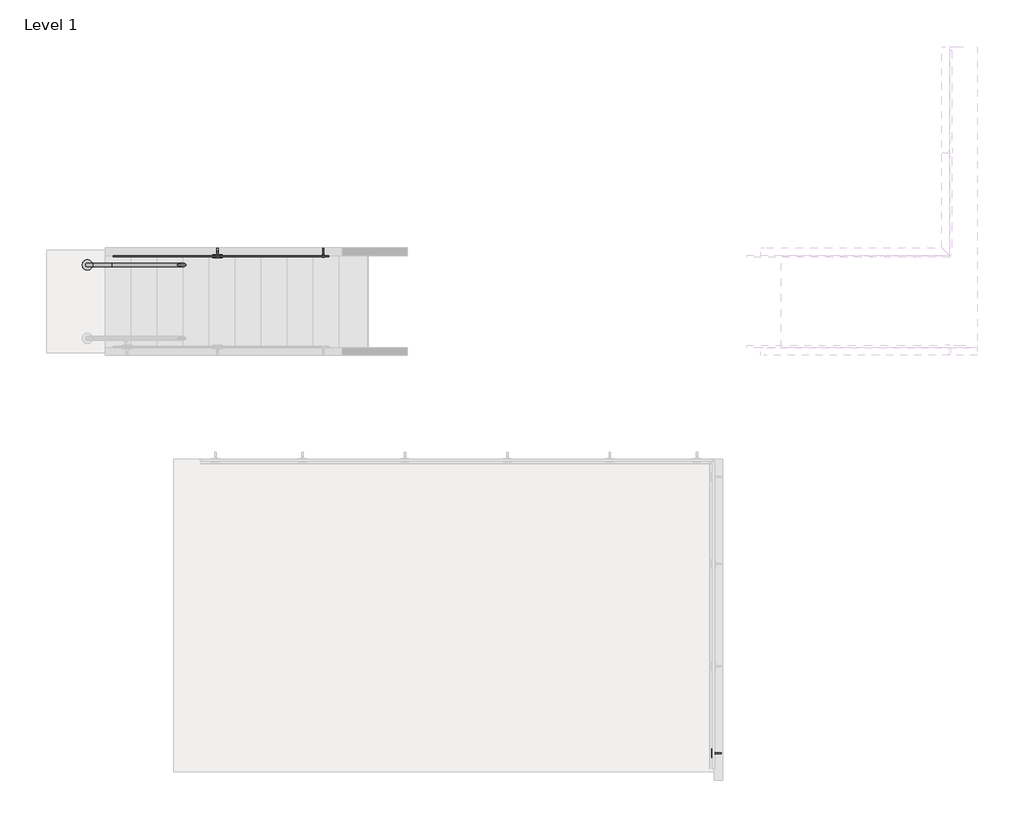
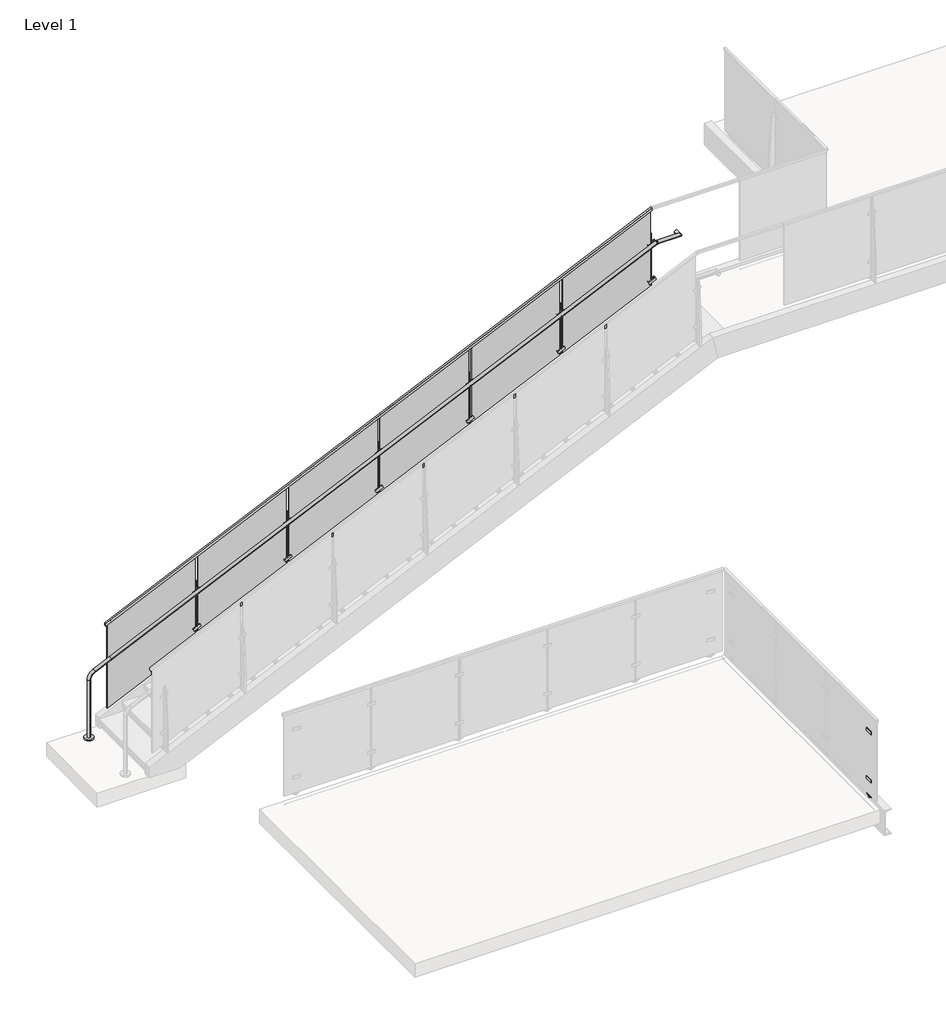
# One storey, part 15 of 37: 1 proxy, 1 railing.
"""IFC4 building model written with IfcOpenShell, lengths in millimetres."""

from ifc_helpers import new_model, si_unit, point, frame, frame_2d, origin, place, context, project, spatial, polyline, circle_curve, ellipse_curve, trimmed, segment, composite_curve, outline, extrude, faceted_brep, transform, mapped, element, save
from ifc_brep_helpers import plane_surface, cylinder_surface, revolved_surface, advanced_brep
from components import baluster_end_post_viva_solo_top_mount_welded_steel_channel_5e72ad2b

model = new_model("IFC4")

# Units and contexts
model_context = context("Model", 3, world=origin())
ifc_project = project(units=[si_unit("LENGTHUNIT", "METRE", prefix="MILLI")], contexts=[model_context])

# Site, building, storey
site = spatial("IfcSite", under=ifc_project)
building = spatial("IfcBuilding", under=site)
storey = spatial("IfcBuildingStorey", under=building, Name="Level 1", Elevation=0.0)

# Proxy
placement = place(None, origin())
baluster_end_post_viva_solo_top_mount_welded_steel_channel_shape = baluster_end_post_viva_solo_top_mount_welded_steel_channel_5e72ad2b(model_context)
element("IfcBuildingElementProxy", 1, Name="Baluster-End-Post-VIVA-SOLO-Top Mount : WELDED STEEL CHANNEL_TOP MOUNT FOLD_STRAIGHT", ObjectType="Baluster-End-Post-VIVA-SOLO-Top Mount : WELDED STEEL CHANNEL_TOP MOUNT FOLD_STRAIGHT", at=placement, inside=storey, context=model_context, shape_type="MappedRepresentation", body=[
    mapped(baluster_end_post_viva_solo_top_mount_welded_steel_channel_shape, transform((-7805.6781451, 8794.6434615, -0.508), x_axis=(0.0, 1.0, 0.0), y_axis=(-1.0, 0.0, 0.0), z_axis=(0.0, 0.0, 1.0))),
])

# Railing
element("IfcRailing", 2, ObjectType="VIVA-SOLO-Glass-Top_Weld_Steel-Channel Mount-Stair_Left", at=placement, inside=storey, context=model_context, shape_type="SolidModel", body=[
    advanced_brep(
    [(-7424.494526, 13771.1266645, 3750.91912), (-7424.494526, 13809.2266645, 3750.91912), (-7151.444526, 13771.1266645, 3750.91912), (-7189.544526, 13809.2266645, 3750.91912), (-7151.444526, 13853.6766645, 3750.91912), (-7189.544526, 13853.6766645, 3750.91912)],
    [
        (0, 1, circle_curve(frame((-7424.494526, 13790.1766645, 3750.91912), z_axis=(-1.0, 0.0, 0.0), x_axis=(0.0, 1.0, 0.0)), 19.05)),
        (1, 0, circle_curve(frame((-7424.494526, 13790.1766645, 3750.91912), z_axis=(-1.0, 0.0, 0.0), x_axis=(0.0, 1.0, 0.0)), 19.05)),
        (0, 2),
        (2, 3, ellipse_curve(frame((-7170.494526, 13790.1766645, 3750.91912), z_axis=(-0.7071067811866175, -0.7071067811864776, 0.0), x_axis=(-0.7071067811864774, 0.7071067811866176, 0.0)), 26.9407684, 19.05)),
        (3, 1),
        (3, 2, ellipse_curve(frame((-7170.494526, 13790.1766645, 3750.91912), z_axis=(-0.7071067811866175, -0.7071067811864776, 0.0), x_axis=(-0.7071067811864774, 0.7071067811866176, 0.0)), 26.9407684, 19.05)),
        (4, 5, circle_curve(frame((-7170.494526, 13853.6766645, 3750.91912), z_axis=(0.0, 1.0, 0.0), x_axis=(-1.0, 0.0, 0.0)), 19.05)),
        (5, 4, circle_curve(frame((-7170.494526, 13853.6766645, 3750.91912), z_axis=(0.0, 1.0, 0.0), x_axis=(-1.0, 0.0, 0.0)), 19.05)),
        (2, 4),
        (5, 3),
    ],
    [
        plane_surface(frame((-7424.494526, 13790.1766645, 3750.91912), z_axis=(-1.0, 0.0, 0.0), x_axis=(0.0, 0.0, 1.0))),
        cylinder_surface(frame((-7424.494526, 13790.1766645, 3750.91912), z_axis=(-1.0, 0.0, 0.0), x_axis=(0.0, 1.0, 0.0)), 19.05),
        plane_surface(frame((-7170.494526, 13853.6766645, 3750.91912), z_axis=(0.0, 1.0, 0.0), x_axis=(0.0, 0.0, 1.0))),
        cylinder_surface(frame((-7170.494526, 13790.1766645, 3750.91912), z_axis=(0.0, -1.0, 0.0), x_axis=(-1.0, 0.0, 0.0)), 19.05),
    ],
    [
        (0, [[1, 2]]),
        (1, [[-1, 3, 4, 5]]),
        (1, [[-2, -5, 6, -3]]),
        (2, [[7, 8]]),
        (3, [[-4, 9, -8, 10]]),
        (3, [[-6, -10, -7, -9]]),
    ],
),
    extrude(outline(composite_curve([segment(trimmed(circle_curve(frame_2d((-13976.8960127, 13790.1766645)), 50.8), [point((-13976.8960127, 13840.9766645))], [point((-13976.8960127, 13739.3766645))], False, "CARTESIAN"), True, "CONTINUOUS"), segment(trimmed(circle_curve(frame_2d((-13976.8960127, 13790.1766645)), 50.8), [point((-13976.8960127, 13739.3766645))], [point((-13976.8960127, 13840.9766645))], False, "CARTESIAN"), True, "CONTINUOUS")], self_intersect=False)), frame((0.0, 0.0, -1.27), z_axis=(0.0, 0.0, 1.0), x_axis=(1.0, 0.0, 0.0)), (0.0, 0.0, 1.0), 19.05),
    advanced_brep(
    [(-13976.8960127, 13771.1266645, 17.78), (-13976.8960127, 13809.2266645, 17.78), (-13976.8960127, 13771.1266645, 710.7046838), (-13976.8960127, 13809.2266645, 710.7046838), (-13917.3515938, 13809.2266645, 803.1919159), (-13917.3515938, 13771.1266645, 803.1919159), (-13730.2505912, 13771.1266645, 888.2700527), (-13730.2505912, 13809.2266645, 888.2700527), (-7434.8081841, 13771.1266645, 3750.91912), (-7434.8081841, 13809.2266645, 3750.91912), (-7424.494526, 13771.1266645, 3750.91912), (-7424.494526, 13809.2266645, 3750.91912)],
    [
        (0, 1, circle_curve(frame((-13976.8960127, 13790.1766645, 17.78), z_axis=(0.0, 0.0, -1.0), x_axis=(0.0, 1.0, 0.0)), 19.05)),
        (1, 0, circle_curve(frame((-13976.8960127, 13790.1766645, 17.78), z_axis=(0.0, 0.0, -1.0), x_axis=(0.0, 1.0, 0.0)), 19.05)),
        (0, 2),
        (2, 3, circle_curve(frame((-13976.8960127, 13790.1766645, 710.7046838), z_axis=(0.0, 0.0, -1.0), x_axis=(0.0, 1.0, 0.0)), 19.05)),
        (3, 1),
        (3, 2, circle_curve(frame((-13976.8960127, 13790.1766645, 710.7046838), z_axis=(0.0, 0.0, -1.0), x_axis=(0.0, 1.0, 0.0)), 19.05)),
        (4, 3, circle_curve(frame((-13875.2960127, 13809.2266645, 710.7046838), z_axis=(0.0, -1.0, 0.0), x_axis=(-1.0, 0.0, 0.0)), 101.6)),
        (2, 5, circle_curve(frame((-13875.2960127, 13771.1266645, 710.7046838), z_axis=(0.0, 1.0, 0.0), x_axis=(-1.0, 0.0, 0.0)), 101.6)),
        (5, 4, circle_curve(frame((-13917.3515938, 13790.1766645, 803.1919159), z_axis=(-0.9103074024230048, 0.0, -0.41393288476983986), x_axis=(0.0, 1.0, 0.0)), 19.05)),
        (4, 5, circle_curve(frame((-13917.3515938, 13790.1766645, 803.1919159), z_axis=(-0.9103074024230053, 0.0, -0.41393288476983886), x_axis=(0.0, 1.0, 0.0)), 19.05)),
        (5, 6),
        (6, 7, circle_curve(frame((-13730.2505912, 13790.1766645, 888.2700527), z_axis=(-0.9103074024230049, 0.0, -0.4139328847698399), x_axis=(0.0, 1.0, 0.0)), 19.05)),
        (7, 4),
        (7, 6, circle_curve(frame((-13730.2505912, 13790.1766645, 888.2700527), z_axis=(-0.9103074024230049, 0.0, -0.4139328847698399), x_axis=(0.0, 1.0, 0.0)), 19.05)),
        (6, 8),
        (8, 9, ellipse_curve(frame((-7434.8081841, 13790.1766645, 3750.91912), z_axis=(-0.9773196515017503, 0.0, -0.21176944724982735), x_axis=(0.21176944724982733, 0.0, -0.9773196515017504)), 19.4920873, 19.05)),
        (9, 7),
        (9, 8, ellipse_curve(frame((-7434.8081841, 13790.1766645, 3750.91912), z_axis=(-0.9773196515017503, 0.0, -0.21176944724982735), x_axis=(0.21176944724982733, 0.0, -0.9773196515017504)), 19.4920873, 19.05)),
        (10, 11, circle_curve(frame((-7424.494526, 13790.1766645, 3750.91912), z_axis=(1.0, 0.0, 0.0), x_axis=(0.0, 1.0, 0.0)), 19.05)),
        (11, 10, circle_curve(frame((-7424.494526, 13790.1766645, 3750.91912), z_axis=(1.0, 0.0, 0.0), x_axis=(0.0, 1.0, 0.0)), 19.05)),
        (8, 10),
        (11, 9),
    ],
    [
        plane_surface(frame((-13995.9460127, 13752.0766645, 17.78), z_axis=(0.0, 0.0, -1.0), x_axis=(1.0, 0.0, 0.0))),
        cylinder_surface(frame((-13976.8960127, 13790.1766645, 17.78), z_axis=(0.0, 0.0, -1.0), x_axis=(0.0, 1.0, 0.0)), 19.05),
        revolved_surface(trimmed(ellipse_curve(frame((-13976.8960127, 13790.1766645, 710.7046838), z_axis=(0.0, 0.0, -1.0), x_axis=(0.0, 1.0, 0.0)), 19.05, 19.05), [point((-13976.8960127, 13771.1266645, 710.7046838))], [point((-13976.8960127, 13809.2266645, 710.7046838))], True, "CARTESIAN"), (-13875.2960127, 13790.1766645, 710.7046838), (0.0, 1.0, 0.0)),
        revolved_surface(trimmed(ellipse_curve(frame((-13976.8960127, 13790.1766645, 710.7046838), z_axis=(0.0, 0.0, -1.0), x_axis=(0.0, 1.0, 0.0)), 19.05, 19.05), [point((-13976.8960127, 13809.2266645, 710.7046838))], [point((-13976.8960127, 13771.1266645, 710.7046838))], True, "CARTESIAN"), (-13875.2960127, 13790.1766645, 710.7046838), (0.0, 1.0, 0.0)),
        cylinder_surface(frame((-13917.3515938, 13790.1766645, 803.1919159), z_axis=(-0.9103074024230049, 0.0, -0.4139328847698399), x_axis=(0.0, 1.0, 0.0)), 19.05),
        cylinder_surface(frame((-13730.2505912, 13790.1766645, 888.2700527), z_axis=(-0.9103074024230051, 0.0, -0.4139328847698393), x_axis=(0.0, 1.0, 0.0)), 19.05),
        plane_surface(frame((-7424.494526, 13790.1766645, 3769.96912), z_axis=(1.0, 0.0, 0.0), x_axis=(0.0, 1.0, 0.0))),
        cylinder_surface(frame((-7438.9360127, 13790.1766645, 3750.91912), z_axis=(-1.0, 0.0, 0.0), x_axis=(0.0, 1.0, 0.0)), 19.05),
    ],
    [
        (0, [[1, 2]]),
        (1, [[-1, 3, 4, 5]]),
        (1, [[-2, -5, 6, -3]]),
        (2, [[7, -4, 8, 9]]),
        (3, [[-8, -6, -7, 10]]),
        (4, [[-9, 11, 12, 13]]),
        (4, [[-10, -13, 14, -11]]),
        (5, [[-12, 15, 16, 17]]),
        (5, [[-14, -17, 18, -15]]),
        (6, [[19, 20]]),
        (7, [[-16, 21, -20, 22]]),
        (7, [[-18, -22, -19, -21]]),
    ],
),
    faceted_brep([(-13738.1360127, 13864.5986645, 1263.7514087), (-13738.1360127, 13886.8236645, 1263.7514087), (-13738.1360127, 13886.8236645, 1235.8487465), (-13738.1360127, 13882.0611645, 1235.8487465), (-13738.1360127, 13882.0611645, 1258.5196596), (-13738.1360127, 13869.3611645, 1258.5196596), (-13738.1360127, 13869.3611645, 1235.8487465), (-13738.1360127, 13864.5986645, 1235.8487465), (-7438.9360127, 13864.5986645, 4128.10912), (-7438.9360127, 13864.5986645, 4100.2064577), (-7438.9360127, 13869.3611645, 4100.2064577), (-7438.9360127, 13869.3611645, 4122.8773708), (-7438.9360127, 13882.0611645, 4122.8773708), (-7438.9360127, 13882.0611645, 4100.2064577), (-7438.9360127, 13886.8236645, 4100.2064577), (-7438.9360127, 13886.8236645, 4128.10912)], [[[0, 1, 2, 3, 4, 5, 6, 7]], [[8, 9, 10, 11, 12, 13, 14, 15]], [[1, 0, 8, 15]], [[2, 1, 15, 14]], [[3, 2, 14, 13]], [[4, 3, 13, 12]], [[5, 4, 12, 11]], [[6, 5, 11, 10]], [[7, 6, 10, 9]], [[0, 7, 9, 8]]]),
    extrude(outline(polyline([(4115.0752337, -7455.4862994), (3653.0820544, -8471.4862994), (2614.6266341, -8471.4862994), (3076.6198134, -7455.4862994), (4115.0752337, -7455.4862994)])), frame((0.0, 13869.4246645, 0.0), z_axis=(0.0, 1.0, 0.0), x_axis=(0.0, 0.0, 1.0)), (0.0, 0.0, 1.0), 12.7),
    extrude(outline(polyline([(-12.7, 0.0), (0.0, 0.0), (0.0, -3.175), (58.7375, -34.925), (61.9125, -34.925), (61.9125, -65.0875), (50.8, -65.0875), (-12.7, -3.175), (-12.7, 0.0)])), frame((-8516.4202842, 13797.7361306, 3251.2925311), z_axis=(0.8987940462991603, 0.0, 0.4383711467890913), x_axis=(0.0, 1.0, 0.0)), (0.0, 0.0, 1.0), 12.7),
    extrude(outline(polyline([(13891.7131645, 3320.5161681), (13917.1131645, 3320.5161681), (13955.2131645, 2787.1161681), (13955.2131645, 2543.4267478), (13891.7131645, 2543.4267478), (13891.7131645, 3320.5161681)])), frame((-8495.1526793, 0.0, 0.0), z_axis=(1.0, 0.0, 0.0), x_axis=(0.0, 1.0, 0.0)), (0.0, 0.0, 1.0), 12.7),
    extrude(outline(polyline([(0.0, 88.9), (9.525, 88.9), (9.525, 0.0), (0.0, 0.0), (0.0, 88.9)])), frame((-8441.8811075, 13881.8736306, 2769.4150091), z_axis=(-0.4383711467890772, 0.0, 0.8987940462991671), x_axis=(0.0, 1.0, 0.0)), (0.0, 0.0, 1.0), 31.75),
    extrude(outline(polyline([(0.0, 88.9), (9.525, 88.9), (9.525, 0.0), (0.0, 0.0), (0.0, 88.9)])), frame((-8441.8811075, 13859.6486306, 3214.3481101), z_axis=(-0.4383711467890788, 0.0, 0.8987940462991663), x_axis=(0.0, 1.0, 0.0)), (0.0, 0.0, 1.0), 31.75),
    extrude(outline(polyline([(0.0, 88.9), (9.525, 88.9), (9.525, 0.0), (0.0, 0.0), (0.0, 88.9)])), frame((-8441.8811075, 13881.8736306, 3214.3481101), z_axis=(-0.4383711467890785, 0.0, 0.8987940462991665), x_axis=(0.0, 1.0, 0.0)), (0.0, 0.0, 1.0), 31.75),
    extrude(outline(polyline([(0.0, 88.9), (9.525, 88.9), (9.525, 0.0), (0.0, 0.0), (0.0, 88.9)])), frame((-8441.8811075, 13859.6486306, 2769.4150091), z_axis=(-0.43837114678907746, 0.0, 0.898794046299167), x_axis=(0.0, 1.0, 0.0)), (0.0, 0.0, 1.0), 31.75),
    extrude(outline(polyline([(2616.6368431, -8453.0297221), (2622.3441853, -8455.8133789), (2583.3729904, -8535.7161696), (2577.6656482, -8532.9325128), (2577.4544898, -8483.3743678), (2616.6368431, -8453.0297221)])), frame((0.0, 13869.1736306, 0.0), z_axis=(0.0, 1.0, 0.0), x_axis=(0.0, 0.0, 1.0)), (0.0, 0.0, 1.0), 12.7),
    extrude(outline(composite_curve([segment(trimmed(circle_curve(frame_2d((24.5007934, -6.6985914)), 25.4), [point((0.0, 0.0))], [point((6.4034747, 11.1240644))], False, "CARTESIAN"), True, "CONTINUOUS"), segment(polyline([(6.4034747, 11.1240644), (8.7901892, 9.7460941)]), True, "CONTINUOUS"), segment(trimmed(circle_curve(frame_2d((26.8875078, -8.0765616)), 25.4), [point((8.7901892, 9.7460941))], [point((2.8057896, 0.0))], True, "CARTESIAN"), True, "CONTINUOUS"), segment(polyline([(2.8057896, 0.0), (0.0, 0.0)]), True, "CONTINUOUS")], self_intersect=False)), frame((-8532.3414017, 13797.835377, 3240.4793324), z_axis=(0.8987940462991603, 0.0, 0.4383711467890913), x_axis=(-0.3796405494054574, -0.500000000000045, 0.7783784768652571)), (0.0, 0.0, 1.0), 50.8),
    extrude(outline(composite_curve([segment(trimmed(circle_curve(frame_2d((2790.1972083, -8488.7916448)), 6.35), [point((2790.1972083, -8482.4416448))], [point((2790.1972083, -8495.1416448))], False, "CARTESIAN"), True, "CONTINUOUS"), segment(trimmed(circle_curve(frame_2d((2790.1972083, -8488.7916448)), 6.35), [point((2790.1972083, -8495.1416448))], [point((2790.1972083, -8482.4416448))], False, "CARTESIAN"), True, "CONTINUOUS")], self_intersect=False)), frame((0.0, 13869.1736306, 0.0), z_axis=(0.0, 1.0, 0.0), x_axis=(0.0, 0.0, 1.0)), (0.0, 0.0, 1.0), 12.7),
    extrude(outline(composite_curve([segment(trimmed(circle_curve(frame_2d((3208.436318, -8488.7916448)), 6.35), [point((3208.436318, -8482.4416448))], [point((3208.436318, -8495.1416448))], False, "CARTESIAN"), True, "CONTINUOUS"), segment(trimmed(circle_curve(frame_2d((3208.436318, -8488.7916448)), 6.35), [point((3208.436318, -8495.1416448))], [point((3208.436318, -8482.4416448))], False, "CARTESIAN"), True, "CONTINUOUS")], self_intersect=False)), frame((0.0, 13869.1736306, 0.0), z_axis=(0.0, 1.0, 0.0), x_axis=(0.0, 0.0, 1.0)), (0.0, 0.0, 1.0), 12.7),
    extrude(outline(composite_curve([segment(trimmed(circle_curve(frame_2d((2567.312745, -8488.7916448)), 11.1125), [point((2567.312745, -8477.6791448))], [point((2567.312745, -8499.9041448))], False, "CARTESIAN"), True, "CONTINUOUS"), segment(trimmed(circle_curve(frame_2d((2567.312745, -8488.7916448)), 11.1125), [point((2567.312745, -8499.9041448))], [point((2567.312745, -8477.6791448))], False, "CARTESIAN"), True, "CONTINUOUS")], self_intersect=False)), frame((0.0, 13865.9986306, 0.0), z_axis=(0.0, 1.0, 0.0), x_axis=(0.0, 0.0, 1.0)), (0.0, 0.0, 1.0), 25.4),
    extrude(outline(polyline([(3637.6822818, -8505.3529661), (3175.6891026, -9521.3529661), (2137.2336823, -9521.3529661), (2599.2268615, -8505.3529661), (3637.6822818, -8505.3529661)])), frame((0.0, 13869.4246645, 0.0), z_axis=(0.0, 1.0, 0.0), x_axis=(0.0, 0.0, 1.0)), (0.0, 0.0, 1.0), 12.7),
    extrude(outline(polyline([(-12.7, 0.0), (0.0, 0.0), (0.0, -3.175), (58.7375, -34.9249999), (61.9125, -34.9249999), (61.9125, -65.0875), (50.8, -65.0875), (-12.7, -3.175), (-12.7, 0.0)])), frame((-9566.2869509, 13797.7361306, 2773.8995792), z_axis=(0.8987940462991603, 0.0, 0.4383711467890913), x_axis=(0.0, 1.0, 0.0)), (0.0, 0.0, 1.0), 12.7),
    extrude(outline(polyline([(13891.7131645, 2843.1232162), (13917.1131645, 2843.1232162), (13955.2131645, 2309.7232162), (13955.2131645, 2066.0337959), (13891.7131645, 2066.0337959), (13891.7131645, 2843.1232162)])), frame((-9545.019346, 0.0, 0.0), z_axis=(1.0, 0.0, 0.0), x_axis=(0.0, 1.0, 0.0)), (0.0, 0.0, 1.0), 12.7),
    extrude(outline(polyline([(0.0, 88.9), (9.525, 88.9), (9.525, 0.0), (0.0, 0.0), (0.0, 88.9)])), frame((-9491.7477742, 13881.8736306, 2292.0220572), z_axis=(-0.4383711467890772, 0.0, 0.8987940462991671), x_axis=(0.0, 1.0, 0.0)), (0.0, 0.0, 1.0), 31.75),
    extrude(outline(polyline([(0.0, 88.9), (9.525, 88.9), (9.525, 0.0), (0.0, 0.0), (0.0, 88.9)])), frame((-9491.7477742, 13859.6486306, 2736.9551582), z_axis=(-0.4383711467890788, 0.0, 0.8987940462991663), x_axis=(0.0, 1.0, 0.0)), (0.0, 0.0, 1.0), 31.75),
    extrude(outline(polyline([(0.0, 88.9), (9.525, 88.9), (9.525, 0.0), (0.0, 0.0), (0.0, 88.9)])), frame((-9491.7477742, 13881.8736306, 2736.9551582), z_axis=(-0.4383711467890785, 0.0, 0.8987940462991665), x_axis=(0.0, 1.0, 0.0)), (0.0, 0.0, 1.0), 31.75),
    extrude(outline(polyline([(0.0, 88.9), (9.525, 88.9), (9.525, 0.0), (0.0, 0.0), (0.0, 88.9)])), frame((-9491.7477742, 13859.6486306, 2292.0220572), z_axis=(-0.43837114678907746, 0.0, 0.898794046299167), x_axis=(0.0, 1.0, 0.0)), (0.0, 0.0, 1.0), 31.75),
    extrude(outline(polyline([(2139.2438912, -9502.8963888), (2144.9512334, -9505.6800456), (2105.9800385, -9585.5828363), (2100.2726963, -9582.7991795), (2100.061538, -9533.2410344), (2139.2438912, -9502.8963888)])), frame((0.0, 13869.1736306, 0.0), z_axis=(0.0, 1.0, 0.0), x_axis=(0.0, 0.0, 1.0)), (0.0, 0.0, 1.0), 12.7),
    extrude(outline(composite_curve([segment(trimmed(circle_curve(frame_2d((24.5007933, -6.6985913)), 25.4), [point((0.0, 0.0))], [point((6.4034746, 11.1240644))], False, "CARTESIAN"), True, "CONTINUOUS"), segment(polyline([(6.4034746, 11.1240644), (8.7901892, 9.7460941)]), True, "CONTINUOUS"), segment(trimmed(circle_curve(frame_2d((26.8875078, -8.0765616)), 25.4), [point((8.7901892, 9.7460941))], [point((2.8057896, 0.0))], True, "CARTESIAN"), True, "CONTINUOUS"), segment(polyline([(2.8057896, 0.0), (0.0, 0.0)]), True, "CONTINUOUS")], self_intersect=False)), frame((-9582.2080684, 13797.835377, 2763.0863805), z_axis=(0.8987940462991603, 0.0, 0.4383711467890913), x_axis=(-0.3796405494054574, -0.500000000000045, 0.7783784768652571)), (0.0, 0.0, 1.0), 50.8),
    extrude(outline(composite_curve([segment(trimmed(circle_curve(frame_2d((2312.8042565, -9538.6583115)), 6.35), [point((2312.8042565, -9532.3083115))], [point((2312.8042565, -9545.0083115))], False, "CARTESIAN"), True, "CONTINUOUS"), segment(trimmed(circle_curve(frame_2d((2312.8042565, -9538.6583115)), 6.35), [point((2312.8042565, -9545.0083115))], [point((2312.8042565, -9532.3083115))], False, "CARTESIAN"), True, "CONTINUOUS")], self_intersect=False)), frame((0.0, 13869.1736306, 0.0), z_axis=(0.0, 1.0, 0.0), x_axis=(0.0, 0.0, 1.0)), (0.0, 0.0, 1.0), 12.7),
    extrude(outline(composite_curve([segment(trimmed(circle_curve(frame_2d((2731.0433661, -9538.6583115)), 6.35), [point((2731.0433661, -9532.3083115))], [point((2731.0433661, -9545.0083115))], False, "CARTESIAN"), True, "CONTINUOUS"), segment(trimmed(circle_curve(frame_2d((2731.0433661, -9538.6583115)), 6.35), [point((2731.0433661, -9545.0083115))], [point((2731.0433661, -9532.3083115))], False, "CARTESIAN"), True, "CONTINUOUS")], self_intersect=False)), frame((0.0, 13869.1736306, 0.0), z_axis=(0.0, 1.0, 0.0), x_axis=(0.0, 0.0, 1.0)), (0.0, 0.0, 1.0), 12.7),
    extrude(outline(composite_curve([segment(trimmed(circle_curve(frame_2d((2089.9197931, -9538.6583115)), 11.1125), [point((2089.9197931, -9527.5458115))], [point((2089.9197931, -9549.7708115))], False, "CARTESIAN"), True, "CONTINUOUS"), segment(trimmed(circle_curve(frame_2d((2089.9197931, -9538.6583115)), 11.1125), [point((2089.9197931, -9549.7708115))], [point((2089.9197931, -9527.5458115))], False, "CARTESIAN"), True, "CONTINUOUS")], self_intersect=False)), frame((0.0, 13865.9986306, 0.0), z_axis=(0.0, 1.0, 0.0), x_axis=(0.0, 0.0, 1.0)), (0.0, 0.0, 1.0), 25.4),
    extrude(outline(polyline([(3160.2893299, -9555.2196327), (2698.2961507, -10571.2196327), (1659.8407304, -10571.2196327), (2121.8339096, -9555.2196327), (3160.2893299, -9555.2196327)])), frame((0.0, 13869.4246645, 0.0), z_axis=(0.0, 1.0, 0.0), x_axis=(0.0, 0.0, 1.0)), (0.0, 0.0, 1.0), 12.7),
    extrude(outline(polyline([(-12.7, 0.0), (0.0, 0.0), (0.0, -3.175), (58.7375, -34.925), (61.9125, -34.925), (61.9125, -65.0875), (50.8, -65.0875), (-12.7, -3.175), (-12.7, 0.0)])), frame((-10616.1536175, 13797.7361306, 2296.5066274), z_axis=(0.8987940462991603, 0.0, 0.4383711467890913), x_axis=(0.0, 1.0, 0.0)), (0.0, 0.0, 1.0), 12.7),
    extrude(outline(polyline([(13891.7131645, 2365.7302644), (13917.1131645, 2365.7302644), (13955.2131645, 1832.3302644), (13955.2131645, 1588.6408441), (13891.7131645, 1588.6408441), (13891.7131645, 2365.7302644)])), frame((-10594.8860127, 0.0, 0.0), z_axis=(1.0, 0.0, 0.0), x_axis=(0.0, 1.0, 0.0)), (0.0, 0.0, 1.0), 12.7),
    extrude(outline(polyline([(0.0, 88.9), (9.525, 88.9), (9.525, 0.0), (0.0, 0.0), (0.0, 88.9)])), frame((-10541.6144409, 13881.8736306, 1814.6291054), z_axis=(-0.4383711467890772, 0.0, 0.8987940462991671), x_axis=(0.0, 1.0, 0.0)), (0.0, 0.0, 1.0), 31.75),
    extrude(outline(polyline([(0.0, 88.9), (9.525, 88.9), (9.525, 0.0), (0.0, 0.0), (0.0, 88.9)])), frame((-10541.6144409, 13859.6486306, 2259.5622064), z_axis=(-0.4383711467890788, 0.0, 0.8987940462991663), x_axis=(0.0, 1.0, 0.0)), (0.0, 0.0, 1.0), 31.75),
    extrude(outline(polyline([(0.0, 88.9), (9.525, 88.9), (9.525, 0.0), (0.0, 0.0), (0.0, 88.9)])), frame((-10541.6144409, 13881.8736306, 2259.5622064), z_axis=(-0.4383711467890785, 0.0, 0.8987940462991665), x_axis=(0.0, 1.0, 0.0)), (0.0, 0.0, 1.0), 31.75),
    extrude(outline(polyline([(0.0, 88.9), (9.525, 88.9), (9.525, 0.0), (0.0, 0.0), (0.0, 88.9)])), frame((-10541.6144409, 13859.6486306, 1814.6291054), z_axis=(-0.43837114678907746, 0.0, 0.898794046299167), x_axis=(0.0, 1.0, 0.0)), (0.0, 0.0, 1.0), 31.75),
    extrude(outline(polyline([(1661.8509394, -10552.7630554), (1667.5582815, -10555.5467122), (1628.5870866, -10635.4495029), (1622.8797444, -10632.6658462), (1622.6685861, -10583.1077011), (1661.8509394, -10552.7630554)])), frame((0.0, 13869.1736306, 0.0), z_axis=(0.0, 1.0, 0.0), x_axis=(0.0, 0.0, 1.0)), (0.0, 0.0, 1.0), 12.7),
    extrude(outline(composite_curve([segment(trimmed(circle_curve(frame_2d((24.5007933, -6.6985913)), 25.4), [point((0.0, 0.0))], [point((6.4034747, 11.1240644))], False, "CARTESIAN"), True, "CONTINUOUS"), segment(polyline([(6.4034747, 11.1240644), (8.7901892, 9.7460941)]), True, "CONTINUOUS"), segment(trimmed(circle_curve(frame_2d((26.8875079, -8.0765616)), 25.4), [point((8.7901892, 9.7460941))], [point((2.8057896, 0.0))], True, "CARTESIAN"), True, "CONTINUOUS"), segment(polyline([(2.8057896, 0.0), (0.0, 0.0)]), True, "CONTINUOUS")], self_intersect=False)), frame((-10632.0747351, 13797.835377, 2285.6934286), z_axis=(0.8987940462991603, 0.0, 0.4383711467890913), x_axis=(-0.3796405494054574, -0.500000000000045, 0.7783784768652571)), (0.0, 0.0, 1.0), 50.8),
    extrude(outline(composite_curve([segment(trimmed(circle_curve(frame_2d((1835.4113046, -10588.5249782)), 6.35), [point((1835.4113046, -10582.1749782))], [point((1835.4113046, -10594.8749782))], False, "CARTESIAN"), True, "CONTINUOUS"), segment(trimmed(circle_curve(frame_2d((1835.4113046, -10588.5249782)), 6.35), [point((1835.4113046, -10594.8749782))], [point((1835.4113046, -10582.1749782))], False, "CARTESIAN"), True, "CONTINUOUS")], self_intersect=False)), frame((0.0, 13869.1736306, 0.0), z_axis=(0.0, 1.0, 0.0), x_axis=(0.0, 0.0, 1.0)), (0.0, 0.0, 1.0), 12.7),
    extrude(outline(composite_curve([segment(trimmed(circle_curve(frame_2d((2253.6504143, -10588.5249782)), 6.35), [point((2253.6504143, -10582.1749782))], [point((2253.6504143, -10594.8749782))], False, "CARTESIAN"), True, "CONTINUOUS"), segment(trimmed(circle_curve(frame_2d((2253.6504143, -10588.5249782)), 6.35), [point((2253.6504143, -10594.8749782))], [point((2253.6504143, -10582.1749782))], False, "CARTESIAN"), True, "CONTINUOUS")], self_intersect=False)), frame((0.0, 13869.1736306, 0.0), z_axis=(0.0, 1.0, 0.0), x_axis=(0.0, 0.0, 1.0)), (0.0, 0.0, 1.0), 12.7),
    extrude(outline(composite_curve([segment(trimmed(circle_curve(frame_2d((1612.5268412, -10588.5249782)), 11.1125), [point((1612.5268412, -10577.4124782))], [point((1612.5268412, -10599.6374782))], False, "CARTESIAN"), True, "CONTINUOUS"), segment(trimmed(circle_curve(frame_2d((1612.5268412, -10588.5249782)), 11.1125), [point((1612.5268412, -10599.6374782))], [point((1612.5268412, -10577.4124782))], False, "CARTESIAN"), True, "CONTINUOUS")], self_intersect=False)), frame((0.0, 13865.9986306, 0.0), z_axis=(0.0, 1.0, 0.0), x_axis=(0.0, 0.0, 1.0)), (0.0, 0.0, 1.0), 25.4),
    extrude(outline(polyline([(2682.896378, -10605.0862994), (2220.9031988, -11621.0862994), (1182.4477785, -11621.0862994), (1644.4409578, -10605.0862994), (2682.896378, -10605.0862994)])), frame((0.0, 13869.4246645, 0.0), z_axis=(0.0, 1.0, 0.0), x_axis=(0.0, 0.0, 1.0)), (0.0, 0.0, 1.0), 12.7),
    extrude(outline(polyline([(-12.7, 0.0), (0.0, 0.0), (0.0, -3.175), (58.7375, -34.925), (61.9125, -34.925), (61.9125, -65.0875), (50.8, -65.0875), (-12.7, -3.175), (-12.7, 0.0)])), frame((-11666.0202842, 13797.7361306, 1819.1136755), z_axis=(0.8987940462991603, 0.0, 0.4383711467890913), x_axis=(0.0, 1.0, 0.0)), (0.0, 0.0, 1.0), 12.7),
    extrude(outline(polyline([(13891.7131645, 1888.3373125), (13917.1131645, 1888.3373125), (13955.2131645, 1354.9373125), (13955.2131645, 1111.2478922), (13891.7131645, 1111.2478922), (13891.7131645, 1888.3373125)])), frame((-11644.7526793, 0.0, 0.0), z_axis=(1.0, 0.0, 0.0), x_axis=(0.0, 1.0, 0.0)), (0.0, 0.0, 1.0), 12.7),
    extrude(outline(polyline([(0.0, 88.9), (9.525, 88.9), (9.525, 0.0), (0.0, 0.0), (0.0, 88.9)])), frame((-11591.4811075, 13881.8736306, 1337.2361535), z_axis=(-0.4383711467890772, 0.0, 0.8987940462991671), x_axis=(0.0, 1.0, 0.0)), (0.0, 0.0, 1.0), 31.75),
    extrude(outline(polyline([(0.0, 88.9), (9.525, 88.9), (9.525, 0.0), (0.0, 0.0), (0.0, 88.9)])), frame((-11591.4811075, 13859.6486306, 1782.1692545), z_axis=(-0.4383711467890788, 0.0, 0.8987940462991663), x_axis=(0.0, 1.0, 0.0)), (0.0, 0.0, 1.0), 31.75),
    extrude(outline(polyline([(0.0, 88.9), (9.525, 88.9), (9.525, 0.0), (0.0, 0.0), (0.0, 88.9)])), frame((-11591.4811075, 13881.8736306, 1782.1692545), z_axis=(-0.4383711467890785, 0.0, 0.8987940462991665), x_axis=(0.0, 1.0, 0.0)), (0.0, 0.0, 1.0), 31.75),
    extrude(outline(polyline([(0.0, 88.9), (9.525, 88.9), (9.525, 0.0), (0.0, 0.0), (0.0, 88.9)])), frame((-11591.4811075, 13859.6486306, 1337.2361535), z_axis=(-0.43837114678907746, 0.0, 0.898794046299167), x_axis=(0.0, 1.0, 0.0)), (0.0, 0.0, 1.0), 31.75),
    extrude(outline(polyline([(1184.4579875, -11602.6297221), (1190.1653297, -11605.4133789), (1151.1941347, -11685.3161696), (1145.4867925, -11682.5325128), (1145.2756342, -11632.9743678), (1184.4579875, -11602.6297221)])), frame((0.0, 13869.1736306, 0.0), z_axis=(0.0, 1.0, 0.0), x_axis=(0.0, 0.0, 1.0)), (0.0, 0.0, 1.0), 12.7),
    extrude(outline(composite_curve([segment(trimmed(circle_curve(frame_2d((24.5007934, -6.6985914)), 25.4), [point((0.0, 0.0))], [point((6.4034748, 11.1240644))], False, "CARTESIAN"), True, "CONTINUOUS"), segment(polyline([(6.4034748, 11.1240644), (8.7901892, 9.7460941)]), True, "CONTINUOUS"), segment(trimmed(circle_curve(frame_2d((26.8875079, -8.0765616)), 25.4), [point((8.7901892, 9.7460941))], [point((2.8057897, 0.0))], True, "CARTESIAN"), True, "CONTINUOUS"), segment(polyline([(2.8057897, 0.0), (0.0, 0.0)]), True, "CONTINUOUS")], self_intersect=False)), frame((-11681.9414017, 13797.835377, 1808.3004767), z_axis=(0.8987940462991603, 0.0, 0.4383711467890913), x_axis=(-0.3796405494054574, -0.500000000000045, 0.7783784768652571)), (0.0, 0.0, 1.0), 50.8),
    extrude(outline(composite_curve([segment(trimmed(circle_curve(frame_2d((1358.0183527, -11638.3916448)), 6.35), [point((1358.0183527, -11632.0416448))], [point((1358.0183527, -11644.7416448))], False, "CARTESIAN"), True, "CONTINUOUS"), segment(trimmed(circle_curve(frame_2d((1358.0183527, -11638.3916448)), 6.35), [point((1358.0183527, -11644.7416448))], [point((1358.0183527, -11632.0416448))], False, "CARTESIAN"), True, "CONTINUOUS")], self_intersect=False)), frame((0.0, 13869.1736306, 0.0), z_axis=(0.0, 1.0, 0.0), x_axis=(0.0, 0.0, 1.0)), (0.0, 0.0, 1.0), 12.7),
    extrude(outline(composite_curve([segment(trimmed(circle_curve(frame_2d((1776.2574624, -11638.3916448)), 6.35), [point((1776.2574624, -11632.0416448))], [point((1776.2574624, -11644.7416448))], False, "CARTESIAN"), True, "CONTINUOUS"), segment(trimmed(circle_curve(frame_2d((1776.2574624, -11638.3916448)), 6.35), [point((1776.2574624, -11644.7416448))], [point((1776.2574624, -11632.0416448))], False, "CARTESIAN"), True, "CONTINUOUS")], self_intersect=False)), frame((0.0, 13869.1736306, 0.0), z_axis=(0.0, 1.0, 0.0), x_axis=(0.0, 0.0, 1.0)), (0.0, 0.0, 1.0), 12.7),
    extrude(outline(composite_curve([segment(trimmed(circle_curve(frame_2d((1135.1338893, -11638.3916448)), 11.1125), [point((1135.1338893, -11627.2791448))], [point((1135.1338893, -11649.5041448))], False, "CARTESIAN"), True, "CONTINUOUS"), segment(trimmed(circle_curve(frame_2d((1135.1338893, -11638.3916448)), 11.1125), [point((1135.1338893, -11649.5041448))], [point((1135.1338893, -11627.2791448))], False, "CARTESIAN"), True, "CONTINUOUS")], self_intersect=False)), frame((0.0, 13865.9986306, 0.0), z_axis=(0.0, 1.0, 0.0), x_axis=(0.0, 0.0, 1.0)), (0.0, 0.0, 1.0), 25.4),
    extrude(outline(polyline([(2205.5034262, -11654.9529661), (1743.5102469, -12670.9529661), (705.0548266, -12670.9529661), (1167.0480059, -11654.9529661), (2205.5034262, -11654.9529661)])), frame((0.0, 13869.4246645, 0.0), z_axis=(0.0, 1.0, 0.0), x_axis=(0.0, 0.0, 1.0)), (0.0, 0.0, 1.0), 12.7),
    extrude(outline(polyline([(-12.7, 0.0), (0.0, 0.0), (0.0, -3.175), (58.7375, -34.925), (61.9125, -34.925), (61.9125, -65.0875), (50.8, -65.0875), (-12.7, -3.175), (-12.7, 0.0)])), frame((-12715.8869509, 13797.7361306, 1341.7207236), z_axis=(0.8987940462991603, 0.0, 0.4383711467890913), x_axis=(0.0, 1.0, 0.0)), (0.0, 0.0, 1.0), 12.7),
    extrude(outline(polyline([(13891.7131645, 1410.9443606), (13917.1131645, 1410.9443606), (13955.2131645, 877.5443606), (13955.2131645, 633.8549403), (13891.7131645, 633.8549403), (13891.7131645, 1410.9443606)])), frame((-12694.619346, 0.0, 0.0), z_axis=(1.0, 0.0, 0.0), x_axis=(0.0, 1.0, 0.0)), (0.0, 0.0, 1.0), 12.7),
    extrude(outline(polyline([(0.0, 88.9), (9.525, 88.9), (9.525, 0.0), (0.0, 0.0), (0.0, 88.9)])), frame((-12641.3477742, 13881.8736306, 859.8432016), z_axis=(-0.4383711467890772, 0.0, 0.8987940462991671), x_axis=(0.0, 1.0, 0.0)), (0.0, 0.0, 1.0), 31.75),
    extrude(outline(polyline([(0.0, 88.9), (9.525, 88.9), (9.525, 0.0), (0.0, 0.0), (0.0, 88.9)])), frame((-12641.3477742, 13859.6486306, 1304.7763026), z_axis=(-0.4383711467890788, 0.0, 0.8987940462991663), x_axis=(0.0, 1.0, 0.0)), (0.0, 0.0, 1.0), 31.75),
    extrude(outline(polyline([(0.0, 88.9), (9.525, 88.9), (9.525, 0.0), (0.0, 0.0), (0.0, 88.9)])), frame((-12641.3477742, 13881.8736306, 1304.7763026), z_axis=(-0.4383711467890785, 0.0, 0.8987940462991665), x_axis=(0.0, 1.0, 0.0)), (0.0, 0.0, 1.0), 31.75),
    extrude(outline(polyline([(0.0, 88.9), (9.525, 88.9), (9.525, 0.0), (0.0, 0.0), (0.0, 88.9)])), frame((-12641.3477742, 13859.6486306, 859.8432016), z_axis=(-0.43837114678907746, 0.0, 0.898794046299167), x_axis=(0.0, 1.0, 0.0)), (0.0, 0.0, 1.0), 31.75),
    extrude(outline(polyline([(707.0650356, -12652.4963888), (712.7723778, -12655.2800456), (673.8011828, -12735.1828363), (668.0938407, -12732.3991795), (667.8826823, -12682.8410344), (707.0650356, -12652.4963888)])), frame((0.0, 13869.1736306, 0.0), z_axis=(0.0, 1.0, 0.0), x_axis=(0.0, 0.0, 1.0)), (0.0, 0.0, 1.0), 12.7),
    extrude(outline(composite_curve([segment(trimmed(circle_curve(frame_2d((24.5007934, -6.6985914)), 25.4), [point((0.0, 0.0))], [point((6.4034747, 11.1240644))], False, "CARTESIAN"), True, "CONTINUOUS"), segment(polyline([(6.4034747, 11.1240644), (8.7901893, 9.7460941)]), True, "CONTINUOUS"), segment(trimmed(circle_curve(frame_2d((26.8875079, -8.0765616)), 25.4), [point((8.7901893, 9.7460941))], [point((2.8057896, 0.0))], True, "CARTESIAN"), True, "CONTINUOUS"), segment(polyline([(2.8057896, 0.0), (0.0, 0.0)]), True, "CONTINUOUS")], self_intersect=False)), frame((-12731.8080684, 13797.835377, 1330.9075248), z_axis=(0.8987940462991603, 0.0, 0.4383711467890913), x_axis=(-0.3796405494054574, -0.500000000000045, 0.7783784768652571)), (0.0, 0.0, 1.0), 50.8),
    extrude(outline(composite_curve([segment(trimmed(circle_curve(frame_2d((880.6254008, -12688.2583115)), 6.35), [point((880.6254008, -12681.9083115))], [point((880.6254008, -12694.6083115))], False, "CARTESIAN"), True, "CONTINUOUS"), segment(trimmed(circle_curve(frame_2d((880.6254008, -12688.2583115)), 6.35), [point((880.6254008, -12694.6083115))], [point((880.6254008, -12681.9083115))], False, "CARTESIAN"), True, "CONTINUOUS")], self_intersect=False)), frame((0.0, 13869.1736306, 0.0), z_axis=(0.0, 1.0, 0.0), x_axis=(0.0, 0.0, 1.0)), (0.0, 0.0, 1.0), 12.7),
    extrude(outline(composite_curve([segment(trimmed(circle_curve(frame_2d((1298.8645105, -12688.2583115)), 6.35), [point((1298.8645105, -12681.9083115))], [point((1298.8645105, -12694.6083115))], False, "CARTESIAN"), True, "CONTINUOUS"), segment(trimmed(circle_curve(frame_2d((1298.8645105, -12688.2583115)), 6.35), [point((1298.8645105, -12694.6083115))], [point((1298.8645105, -12681.9083115))], False, "CARTESIAN"), True, "CONTINUOUS")], self_intersect=False)), frame((0.0, 13869.1736306, 0.0), z_axis=(0.0, 1.0, 0.0), x_axis=(0.0, 0.0, 1.0)), (0.0, 0.0, 1.0), 12.7),
    extrude(outline(composite_curve([segment(trimmed(circle_curve(frame_2d((657.7409375, -12688.2583115)), 11.1125), [point((657.7409375, -12677.1458115))], [point((657.7409375, -12699.3708115))], False, "CARTESIAN"), True, "CONTINUOUS"), segment(trimmed(circle_curve(frame_2d((657.7409375, -12688.2583115)), 11.1125), [point((657.7409375, -12699.3708115))], [point((657.7409375, -12677.1458115))], False, "CARTESIAN"), True, "CONTINUOUS")], self_intersect=False)), frame((0.0, 13865.9986306, 0.0), z_axis=(0.0, 1.0, 0.0), x_axis=(0.0, 0.0, 1.0)), (0.0, 0.0, 1.0), 25.4),
    extrude(outline(polyline([(1728.1104743, -12704.8196327), (1266.117295, -13720.8196327), (227.6618748, -13720.8196327), (689.655054, -12704.8196327), (1728.1104743, -12704.8196327)])), frame((0.0, 13869.4246645, 0.0), z_axis=(0.0, 1.0, 0.0), x_axis=(0.0, 0.0, 1.0)), (0.0, 0.0, 1.0), 12.7),
    extrude(outline(polyline([(-12.7, 0.0), (0.0, 0.0), (0.0, -3.175), (58.7375, -34.925), (61.9125, -34.925), (61.9125, -65.0875), (50.8, -65.0875), (-12.7, -3.175), (-12.7, 0.0)])), frame((-7466.5536175, 13797.7361306, 3728.685483), z_axis=(0.8987940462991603, 0.0, 0.4383711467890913), x_axis=(0.0, 1.0, 0.0)), (0.0, 0.0, 1.0), 12.7),
    extrude(outline(polyline([(13891.7131645, 3797.90912), (13917.1131645, 3797.90912), (13955.2131645, 3264.50912), (13955.2131645, 3020.8196997), (13891.7131645, 3020.8196997), (13891.7131645, 3797.90912)])), frame((-7445.2860127, 0.0, 0.0), z_axis=(1.0, 0.0, 0.0), x_axis=(0.0, 1.0, 0.0)), (0.0, 0.0, 1.0), 12.7),
    extrude(outline(polyline([(0.0, 88.9), (9.525, 88.9), (9.525, 0.0), (0.0, 0.0), (0.0, 88.9)])), frame((-7392.0144409, 13881.8736306, 3246.807961), z_axis=(-0.4383711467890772, 0.0, 0.8987940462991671), x_axis=(0.0, 1.0, 0.0)), (0.0, 0.0, 1.0), 31.75),
    extrude(outline(polyline([(0.0, 88.9), (9.525, 88.9), (9.525, 0.0), (0.0, 0.0), (0.0, 88.9)])), frame((-7392.0144409, 13859.6486306, 3691.741062), z_axis=(-0.4383711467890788, 0.0, 0.8987940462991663), x_axis=(0.0, 1.0, 0.0)), (0.0, 0.0, 1.0), 31.75),
    extrude(outline(polyline([(0.0, 88.9), (9.525, 88.9), (9.525, 0.0), (0.0, 0.0), (0.0, 88.9)])), frame((-7392.0144409, 13881.8736306, 3691.741062), z_axis=(-0.4383711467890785, 0.0, 0.8987940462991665), x_axis=(0.0, 1.0, 0.0)), (0.0, 0.0, 1.0), 31.75),
    extrude(outline(polyline([(0.0, 88.9), (9.525, 88.9), (9.525, 0.0), (0.0, 0.0), (0.0, 88.9)])), frame((-7392.0144409, 13859.6486306, 3246.807961), z_axis=(-0.43837114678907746, 0.0, 0.898794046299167), x_axis=(0.0, 1.0, 0.0)), (0.0, 0.0, 1.0), 31.75),
    extrude(outline(polyline([(3094.029795, -7403.1630554), (3099.7371372, -7405.9467122), (3060.7659422, -7485.8495029), (3055.0586, -7483.0658462), (3054.8474417, -7433.5077011), (3094.029795, -7403.1630554)])), frame((0.0, 13869.1736306, 0.0), z_axis=(0.0, 1.0, 0.0), x_axis=(0.0, 0.0, 1.0)), (0.0, 0.0, 1.0), 12.7),
    extrude(outline(composite_curve([segment(trimmed(circle_curve(frame_2d((24.5007933, -6.6985913)), 25.4), [point((0.0, 0.0))], [point((6.4034747, 11.1240644))], False, "CARTESIAN"), True, "CONTINUOUS"), segment(polyline([(6.4034747, 11.1240644), (8.7901892, 9.7460941)]), True, "CONTINUOUS"), segment(trimmed(circle_curve(frame_2d((26.8875079, -8.0765616)), 25.4), [point((8.7901892, 9.7460941))], [point((2.8057896, 0.0))], True, "CARTESIAN"), True, "CONTINUOUS"), segment(polyline([(2.8057896, 0.0), (0.0, 0.0)]), True, "CONTINUOUS")], self_intersect=False)), frame((-7482.4747351, 13797.835377, 3717.8722842), z_axis=(0.8987940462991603, 0.0, 0.4383711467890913), x_axis=(-0.3796405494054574, -0.500000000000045, 0.7783784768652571)), (0.0, 0.0, 1.0), 50.8),
    extrude(outline(composite_curve([segment(trimmed(circle_curve(frame_2d((3267.5901602, -7438.9249782)), 6.35), [point((3267.5901602, -7432.5749782))], [point((3267.5901602, -7445.2749782))], False, "CARTESIAN"), True, "CONTINUOUS"), segment(trimmed(circle_curve(frame_2d((3267.5901602, -7438.9249782)), 6.35), [point((3267.5901602, -7445.2749782))], [point((3267.5901602, -7432.5749782))], False, "CARTESIAN"), True, "CONTINUOUS")], self_intersect=False)), frame((0.0, 13869.1736306, 0.0), z_axis=(0.0, 1.0, 0.0), x_axis=(0.0, 0.0, 1.0)), (0.0, 0.0, 1.0), 12.7),
    extrude(outline(composite_curve([segment(trimmed(circle_curve(frame_2d((3685.8292699, -7438.9249782)), 6.35), [point((3685.8292699, -7432.5749782))], [point((3685.8292699, -7445.2749782))], False, "CARTESIAN"), True, "CONTINUOUS"), segment(trimmed(circle_curve(frame_2d((3685.8292699, -7438.9249782)), 6.35), [point((3685.8292699, -7445.2749782))], [point((3685.8292699, -7432.5749782))], False, "CARTESIAN"), True, "CONTINUOUS")], self_intersect=False)), frame((0.0, 13869.1736306, 0.0), z_axis=(0.0, 1.0, 0.0), x_axis=(0.0, 0.0, 1.0)), (0.0, 0.0, 1.0), 12.7),
    extrude(outline(composite_curve([segment(trimmed(circle_curve(frame_2d((3044.7056968, -7438.9249782)), 11.1125), [point((3044.7056968, -7427.8124782))], [point((3044.7056968, -7450.0374782))], False, "CARTESIAN"), True, "CONTINUOUS"), segment(trimmed(circle_curve(frame_2d((3044.7056968, -7438.9249782)), 11.1125), [point((3044.7056968, -7450.0374782))], [point((3044.7056968, -7427.8124782))], False, "CARTESIAN"), True, "CONTINUOUS")], self_intersect=False)), frame((0.0, 13865.9986306, 0.0), z_axis=(0.0, 1.0, 0.0), x_axis=(0.0, 0.0, 1.0)), (0.0, 0.0, 1.0), 25.4),
])

save(model, "model.ifc")
